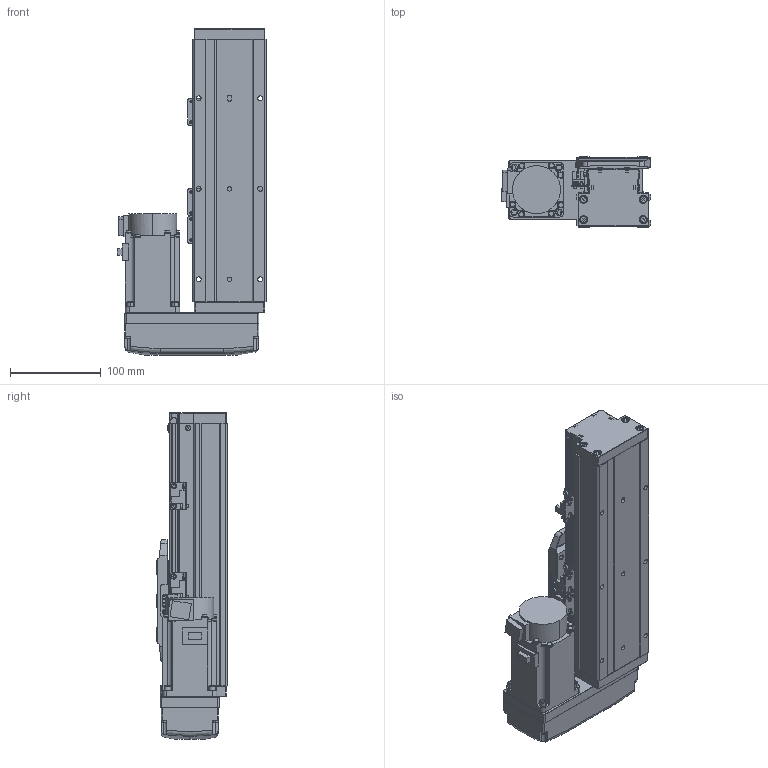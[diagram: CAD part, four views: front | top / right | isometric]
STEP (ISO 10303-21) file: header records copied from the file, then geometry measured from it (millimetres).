
FILE_DESCRIPTION (( 'STEP AP203' ), '1' );
FILE_NAME ('GTH8-100-BL-M20-C4.step', '2022-09-23T00:58:40', ( '微软用户' ), ( '微软中国' ), 'SwSTEP 2.0', 'SolidWorks 2020', '' );
FILE_SCHEMA (( 'CONFIG_CONTROL_DESIGN' ));
Length unit declared in the file: millimetre
Products named in the file (18): GTH80-028; CTHA86-033_M40B; GTH80-006; GTH50-024; GTH8-100-BL-M20-C4; GTH80-013; GTH50-023; GBT 70.3-M3℅6; GBT96.1-2002 3×0.8; GTH80-022; BTH-M3X5X6; GTH80-001_100; GBT 70.1-M3℅6; hg-kn43j_-s100_; GTH80-003; GBT 70.1-M4×16; CTHA86-015-1_CTHA86-015-2; GTH80-004
Assembly tree (57 placements, depth 2):
  GTH8-100-BL-M20-C4
    GTH80-001_100
    GTH80-003
    GTH80-004
    GTH80-006
    GTH80-013
    GBT 70.3-M3℅6  x4
    GTH80-022
    GBT 70.1-M3℅6  x14
    GBT 70.1-M4×16  x8
    GTH80-028  x2
    GTH50-024  x3
    GTH50-023  x3
    GBT96.1-2002 3×0.8  x6
    BTH-M3X5X6  x8
    hg-kn43j_-s100_
    CTHA86-015-1_CTHA86-015-2
    CTHA86-033_M40B
Bounding box: 164.8 x 78 x 361 mm (x, y, z)
Volume: 2248610.3 mm3; surface area: 295505.3 mm2
Topology: 59 solids, 59 shells, 2220 faces, 5115 edges, 3131 vertices
Faces by surface type: plane 1187, cylinder 591, cone 260, torus 166, bspline 8, sphere 8
Entity records: 40182 total; most frequent: CARTESIAN_POINT 7073, DIRECTION 6509, ORIENTED_EDGE 6048, EDGE_CURVE 3024, AXIS2_PLACEMENT_3D 2265, LINE 1979, VECTOR 1979, VERTEX_POINT 1906
